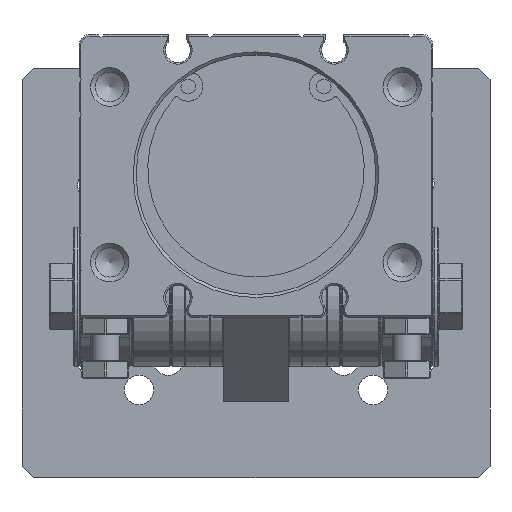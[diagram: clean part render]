
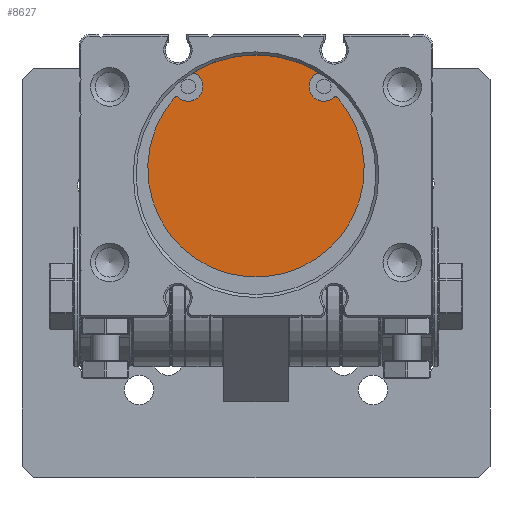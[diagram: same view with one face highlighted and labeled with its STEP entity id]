
A CAD part, front view. The second image highlights one B-rep face of the part: STEP entity #8627.
In plain terms, the highlighted planar face has unit normal (0, -1, 0).
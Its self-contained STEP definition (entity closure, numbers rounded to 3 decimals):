
#5274=PLANE('',#34844);
#6903=FACE_OUTER_BOUND('',#13424,.T.);
#8627=ADVANCED_FACE('',(#6903),#5274,.T.);
#13424=EDGE_LOOP('',(#15626,#15627,#15628,#15629,#15630,#15631));
#15626=ORIENTED_EDGE('',*,*,#29287,.T.);
#15627=ORIENTED_EDGE('',*,*,#29288,.T.);
#15628=ORIENTED_EDGE('',*,*,#29289,.F.);
#15629=ORIENTED_EDGE('',*,*,#29290,.T.);
#15630=ORIENTED_EDGE('',*,*,#29291,.T.);
#15631=ORIENTED_EDGE('',*,*,#29292,.T.);
#25880=VERTEX_POINT('',#44560);
#25881=VERTEX_POINT('',#44561);
#25882=VERTEX_POINT('',#44563);
#25883=VERTEX_POINT('',#44565);
#25884=VERTEX_POINT('',#44567);
#25885=VERTEX_POINT('',#44569);
#29287=EDGE_CURVE('',#25880,#25881,#34412,.T.);
#29288=EDGE_CURVE('',#25881,#25882,#34413,.T.);
#29289=EDGE_CURVE('',#25883,#25882,#34414,.T.);
#29290=EDGE_CURVE('',#25883,#25884,#34415,.T.);
#29291=EDGE_CURVE('',#25884,#25885,#34416,.T.);
#29292=EDGE_CURVE('',#25885,#25880,#34417,.T.);
#34412=CIRCLE('',#34838,0.499);
#34413=CIRCLE('',#34839,2.5);
#34414=CIRCLE('',#34840,20.5);
#34415=CIRCLE('',#34841,2.5);
#34416=CIRCLE('',#34842,0.499);
#34417=CIRCLE('',#34843,18.5);
#34838=AXIS2_PLACEMENT_3D('',#44559,#37261,#37262);
#34839=AXIS2_PLACEMENT_3D('',#44562,#37263,#37264);
#34840=AXIS2_PLACEMENT_3D('',#44564,#37265,#37266);
#34841=AXIS2_PLACEMENT_3D('',#44566,#37267,#37268);
#34842=AXIS2_PLACEMENT_3D('',#44568,#37269,#37270);
#34843=AXIS2_PLACEMENT_3D('',#44570,#37271,#37272);
#34844=AXIS2_PLACEMENT_3D('',#44571,#37273,#37274);
#37261=DIRECTION('',(0.,-1.,0.));
#37262=DIRECTION('',(-1.,0.,0.));
#37263=DIRECTION('',(0.,1.,0.));
#37264=DIRECTION('',(-1.,0.,0.));
#37265=DIRECTION('',(0.,1.,0.));
#37266=DIRECTION('',(0.,0.,-1.));
#37267=DIRECTION('',(0.,1.,0.));
#37268=DIRECTION('',(1.,0.,0.));
#37269=DIRECTION('',(0.,-1.,0.));
#37270=DIRECTION('',(1.,0.,0.));
#37271=DIRECTION('',(0.,-1.,0.));
#37272=DIRECTION('',(1.,0.,0.));
#37273=DIRECTION('',(0.,-1.,0.));
#37274=DIRECTION('',(0.,0.,1.));
#44559=CARTESIAN_POINT('',(3035.326,1804.8,-60.179));
#44560=CARTESIAN_POINT('',(3035.702,1804.8,-59.851));
#44561=CARTESIAN_POINT('',(3034.996,1804.8,-59.805));
#44562=CARTESIAN_POINT('',(3033.332,1804.8,-57.939));
#44563=CARTESIAN_POINT('',(3032.538,1804.8,-55.568));
#44564=CARTESIAN_POINT('',(3021.75,1804.8,-73.));
#44565=CARTESIAN_POINT('',(3010.962,1804.8,-55.568));
#44566=CARTESIAN_POINT('',(3010.168,1804.8,-57.939));
#44567=CARTESIAN_POINT('',(3008.501,1804.8,-59.802));
#44568=CARTESIAN_POINT('',(3008.174,1804.8,-60.179));
#44569=CARTESIAN_POINT('',(3007.798,1804.8,-59.851));
#44570=CARTESIAN_POINT('',(3021.75,1804.8,-72.));
#44571=CARTESIAN_POINT('',(3021.75,1804.8,-73.));
